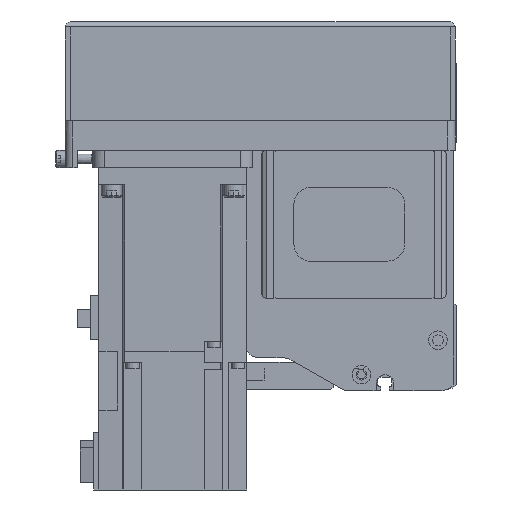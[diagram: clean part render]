
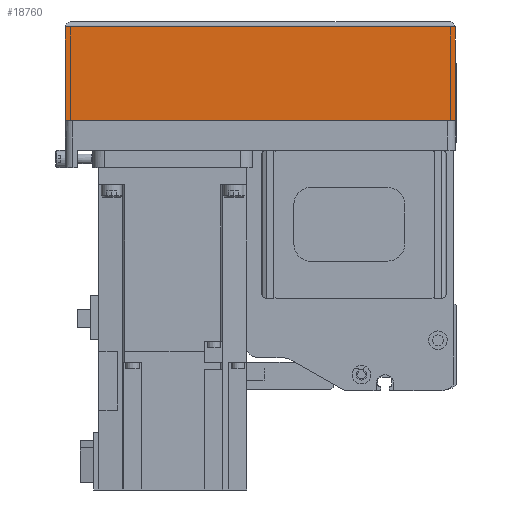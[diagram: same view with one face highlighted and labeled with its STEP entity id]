
A CAD part, left-side view. The second image highlights one B-rep face of the part: STEP entity #18760.
In plain terms, the highlighted planar face has unit normal (-1, 0, 0) as drawn and (0, 1, 0) by its records, which use the part's own axes.
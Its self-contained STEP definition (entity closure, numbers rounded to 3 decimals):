
#2892=ORIENTED_EDGE('',*,*,#7517,.F.);
#2893=ORIENTED_EDGE('',*,*,#7586,.F.);
#2894=ORIENTED_EDGE('',*,*,#7534,.T.);
#2895=ORIENTED_EDGE('',*,*,#7509,.T.);
#7509=EDGE_CURVE('',#10008,#10007,#11925,.T.);
#7517=EDGE_CURVE('',#10015,#10007,#11933,.T.);
#7534=EDGE_CURVE('',#10025,#10008,#11946,.T.);
#7586=EDGE_CURVE('',#10025,#10015,#11975,.T.);
#10007=VERTEX_POINT('',#28760);
#10008=VERTEX_POINT('',#28762);
#10015=VERTEX_POINT('',#28779);
#10025=VERTEX_POINT('',#28810);
#11925=LINE('',#28761,#13605);
#11933=LINE('',#28778,#13613);
#11946=LINE('',#28809,#13626);
#11975=LINE('',#28904,#13655);
#13605=VECTOR('',#23013,1000.);
#13613=VECTOR('',#23025,1000.);
#13626=VECTOR('',#23054,1000.);
#13655=VECTOR('',#23171,1000.);
#15162=EDGE_LOOP('',(#2892,#2893,#2894,#2895));
#16662=FACE_BOUND('',#15162,.T.);
#17991=PLANE('',#20121);
#18760=ADVANCED_FACE('',(#16662),#17991,.T.);
#20121=AXIS2_PLACEMENT_3D('',#28903,#23169,#23170);
#23013=DIRECTION('',(1.,0.,0.));
#23025=DIRECTION('',(0.,0.,1.));
#23054=DIRECTION('',(0.,0.,1.));
#23169=DIRECTION('',(0.,1.,0.));
#23170=DIRECTION('',(0.,0.,1.));
#23171=DIRECTION('',(1.,0.,0.));
#28760=CARTESIAN_POINT('',(0.,39.,-12.1));
#28761=CARTESIAN_POINT('',(-158.,39.,-12.1));
#28762=CARTESIAN_POINT('',(-158.,39.,-12.1));
#28778=CARTESIAN_POINT('',(0.,39.,-50.));
#28779=CARTESIAN_POINT('',(0.,39.,-50.));
#28809=CARTESIAN_POINT('',(-158.,39.,-50.));
#28810=CARTESIAN_POINT('',(-158.,39.,-50.));
#28903=CARTESIAN_POINT('',(-158.,39.,-50.));
#28904=CARTESIAN_POINT('',(-158.,39.,-50.));
